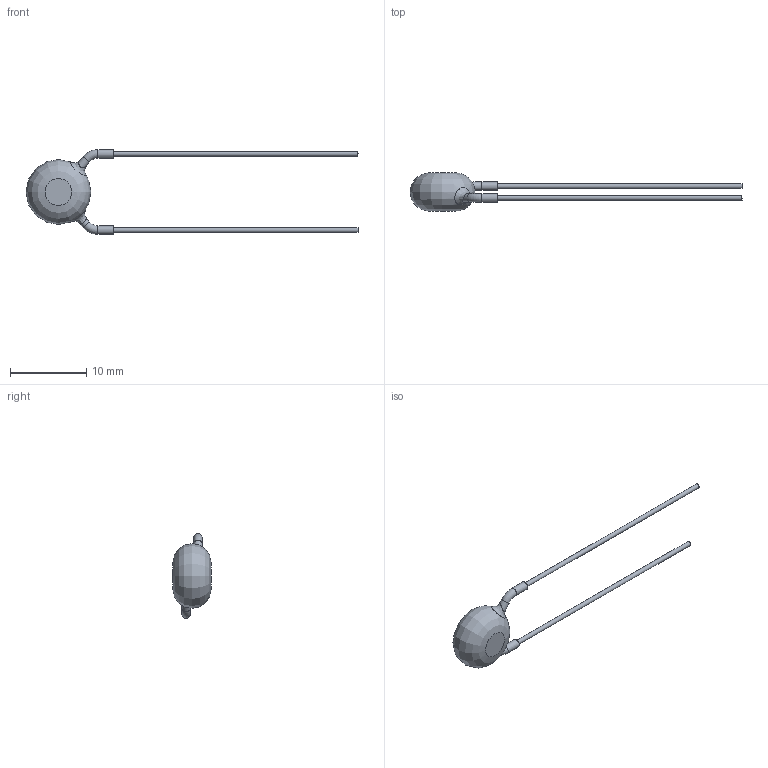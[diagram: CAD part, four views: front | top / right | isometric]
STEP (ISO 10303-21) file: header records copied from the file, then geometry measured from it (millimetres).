
FILE_DESCRIPTION((''),'2;1');
FILE_NAME('I:\Marketing\M6t1\3D-Models\Zchng-Werk-3\Upload for homepage\BCC\AY2\Y5U-10mm\AY2152M31Y5US63L0\AY2152M31Y5US63L0.stp','2015-09-09T08:52:24',(''),(''),'Autodesk Inventor 2013','Autodesk Inventor 2013','');
FILE_SCHEMA(('AUTOMOTIVE_DESIGN { 1 0 10303 214 1 1 1 1 }'));
Length unit declared in the file: centimetre
Products named in the file (1): AY2152M31Y5US63L0
Bounding box: 43.5 x 5 x 11.1 mm (x, y, z)
Volume: 250.5 mm3; surface area: 340.9 mm2
Topology: 1 solids, 1 shells, 17 faces, 31 edges, 20 vertices
Faces by surface type: cylinder 6, plane 6, bspline 3, torus 2
Full cylindrical faces by diameter (mm): 0.6 x2, 1.1 x4
Entity records: 682 total; most frequent: CARTESIAN_POINT 353, DIRECTION 58, ORIENTED_EDGE 36, EDGE_LOOP 30, AXIS2_PLACEMENT_3D 29, EDGE_CURVE 18, STYLED_ITEM 18, FACE_OUTER_BOUND 17
